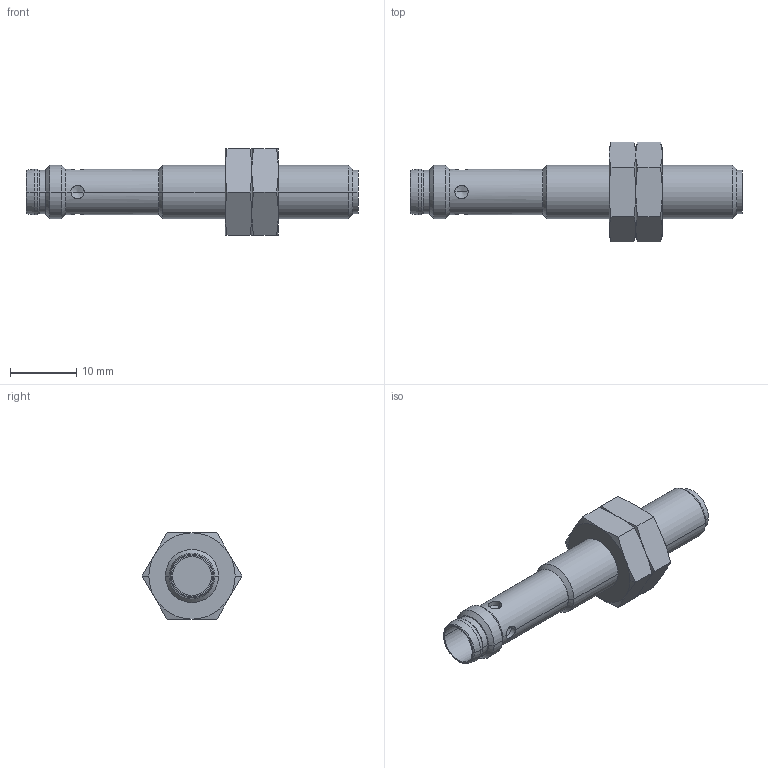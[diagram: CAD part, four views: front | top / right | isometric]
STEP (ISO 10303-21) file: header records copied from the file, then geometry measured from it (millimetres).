
FILE_DESCRIPTION( ( '' ), '1' );
FILE_NAME( '//expscmdclustefs.cadenas.external/client_exchange/iodir/jobs/output/wkb39657287_no0/STEP/iec201_2_03_56fa68aab0d912ba39a93ed9979b71de.stp', '2011-12-01T07:42:54', ( '' ), ( '' ), ' ', ' ', ' ' );
FILE_SCHEMA( ( 'CONFIG_CONTROL_DESIGN' ) );
Length unit declared in the file: millimetre
Products named in the file (3): 1; 2; 3
Bounding box: 50 x 15.01 x 13 mm (x, y, z)
Volume: 2954.4 mm3; surface area: 2324 mm2
Topology: 3 solids, 3 shells, 111 faces, 245 edges, 139 vertices
Faces by surface type: cone 60, cylinder 26, plane 23, torus 2
Entity records: 3164 total; most frequent: CARTESIAN_POINT 726, DIRECTION 506, ORIENTED_EDGE 474, EDGE_CURVE 237, AXIS2_PLACEMENT_3D 215, VERTEX_POINT 139, EDGE_LOOP 122, ADVANCED_FACE 111
